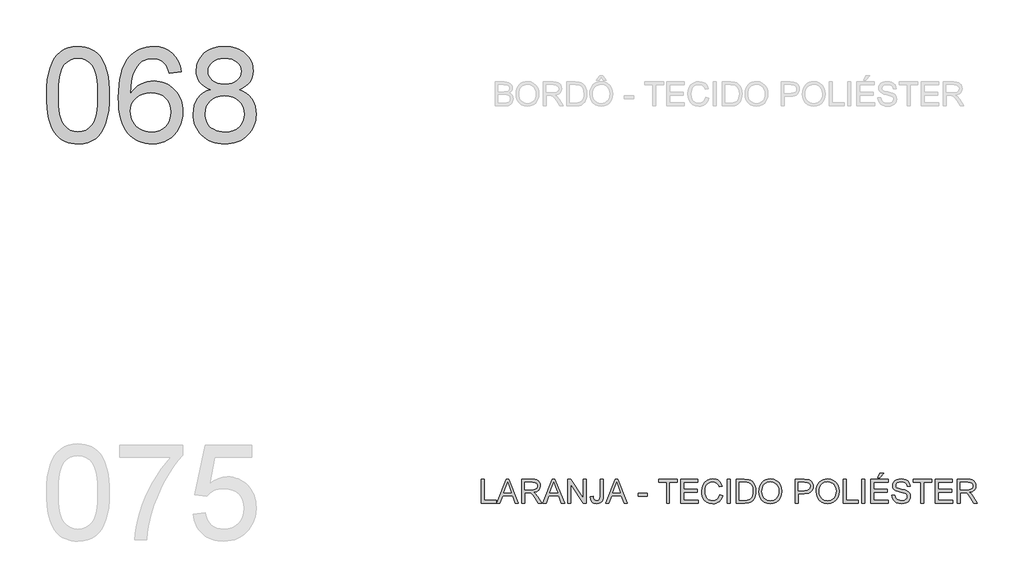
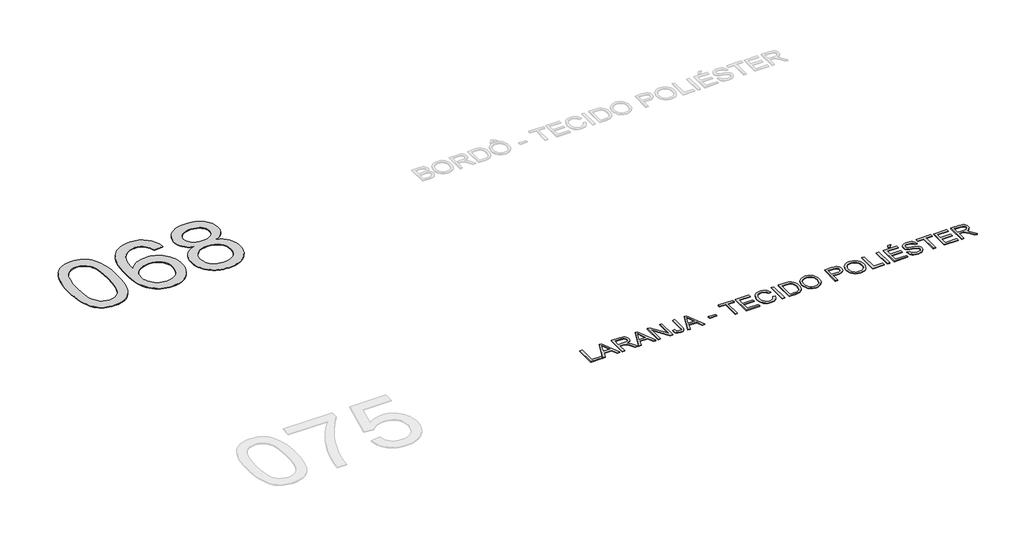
# One storey, part 8 of 39: 2 proxies.
"""IFC4 building model written with IfcOpenShell, lengths in millimetres."""

from ifc_helpers import new_model, si_unit, origin, origin_with_axes, place, context, project, spatial, polyline, outline, extrude, element, save

model = new_model("IFC4")

# Units and contexts
model_context = context("Model", 3, world=origin())
ifc_project = project(units=[si_unit("LENGTHUNIT", "METRE", prefix="MILLI")], contexts=[model_context])

# Site, building, storey
site = spatial("IfcSite", under=ifc_project)
building = spatial("IfcBuilding", under=site)
storey = spatial("IfcBuildingStorey", under=building, Name="Marelli - Linha PROFIT - Planta Baixa", Elevation=0.0)

# Proxies
placement = place(None, origin())
element("IfcBuildingElementProxy", 1, Name="1200mm Arial", ObjectType="1200mm Arial", at=placement, inside=storey, context=model_context, shape_type="SweptSolid", body=[
    extrude(outline(polyline([(-25181.1313792, -114395.792664), (-25178.3630672, -114294.4319773), (-25170.0581311, -114202.8385576), (-25156.2165711, -114121.0124048), (-25136.838387, -114048.953519), (-25112.0063523, -113986.073289), (-25081.8032405, -113931.7831035), (-25046.2290516, -113886.0829627), (-25005.2837855, -113848.9728664), (-24958.8294866, -113820.2596767), (-24906.728199, -113799.7502555), (-24848.9799228, -113787.4446027), (-24785.584658, -113783.3427185), (-24737.9439396, -113785.7707396), (-24692.7312424, -113793.0548031), (-24649.9465664, -113805.194909), (-24609.5899115, -113822.1910572), (-24572.6361651, -113843.7581391), (-24540.0602144, -113869.6110463), (-24511.8620595, -113899.7497788), (-24488.0417003, -113934.1743365), (-24467.4035204, -113972.7467637), (-24448.7519032, -114015.3291046), (-24417.4083572, -114112.5235278), (-24405.4337983, -114169.6831928), (-24396.8805419, -114235.9479371), (-24391.7485881, -114311.3177609), (-24390.0379368, -114395.792664), (-24392.7786576, -114496.5095573), (-24401.0008202, -114587.6431245), (-24414.7044246, -114669.1933658), (-24433.8894706, -114741.1602811), (-24458.5283672, -114804.0681023), (-24488.5935233, -114858.4410612), (-24524.0849388, -114904.2791578), (-24565.0026137, -114941.5823921), (-24611.5120949, -114970.4887199), (-24663.7789294, -114991.1360968), (-24721.8031171, -115003.524523), (-24785.584658, -115007.6539984), (-24828.2589694, -115005.8605737), (-24868.5788361, -115000.4802995), (-24906.544258, -114991.5131759), (-24942.1552351, -114978.9592028), (-24975.4117675, -114962.8183803), (-25006.3138551, -114943.0907083), (-25034.8614979, -114919.7761868), (-25061.054696, -114892.8748159), (-25089.1976686, -114850.2786794), (-25113.5882449, -114802.0999336), (-25134.2264248, -114748.3385785), (-25151.1122084, -114688.9946142), (-25164.2455956, -114624.0680406), (-25173.6265865, -114553.5588577), (-25179.255181, -114477.4670655), (-25181.1313792, -114395.792664)]), holes=[polyline([(-25030.446914, -114395.4983584), (-25026.03233, -114526.4919399), (-25012.7885782, -114632.5247279), (-25002.8557643, -114676.1808245), (-24990.7156585, -114713.5967226), (-24976.3682607, -114744.7724225), (-24959.8135709, -114769.7079239), (-24922.4367602, -114807.884878), (-24880.9396711, -114835.1541309), (-24835.3223037, -114851.5156826), (-24785.584658, -114856.9695332), (-24735.8470122, -114851.4972885), (-24690.2296448, -114835.0805545), (-24648.7325558, -114807.7193311), (-24611.3557451, -114769.4136183), (-24594.8010553, -114744.418336), (-24580.4536575, -114713.2104465), (-24568.3135516, -114675.7899498), (-24558.3807378, -114632.1568459), (-24545.1369859, -114526.2528166), (-24540.722402, -114395.4983584), (-24544.9898331, -114267.9720648), (-24557.7921266, -114163.8062779), (-24567.3938467, -114120.4835744), (-24579.1292823, -114083.0009976), (-24592.9984335, -114051.3585475), (-24609.0013003, -114025.5562241), (-24645.7527116, -113985.5122689), (-24687.7280473, -113956.9094438), (-24734.9273073, -113939.7477487), (-24787.3504916, -113934.0271837), (-24836.8306199, -113939.067167), (-24881.6754351, -113954.187117), (-24921.8849372, -113979.3870337), (-24957.4591261, -114014.666917), (-24974.5656389, -114043.2145599), (-24989.3912833, -114077.2068562), (-25001.9360594, -114116.6438061), (-25012.199967, -114161.5254095), (-25025.8851772, -114267.6225769), (-25030.446914, -114395.4983584)])]), origin_with_axes(), (0.0, 0.0, 1.0), 10.0),
    extrude(outline(polyline([(-23485.9311454, -114103.5472071), (-23636.6156107, -114122.3827652), (-23647.6888587, -114082.0812927), (-23660.8958223, -114047.7027202), (-23676.2365015, -114019.2470479), (-23693.7108963, -113996.7142757), (-23726.102906, -113969.2886729), (-23762.063371, -113949.6989567), (-23801.5922914, -113937.9451269), (-23844.6896671, -113934.0271837), (-23880.2270679, -113936.3080521), (-23914.734399, -113943.1506572), (-23948.2116606, -113954.554999), (-23980.6588525, -113970.5210776), (-24010.2641561, -113996.6315022), (-24037.2758916, -114028.1681863), (-24061.694059, -114065.1311297), (-24083.5186584, -114107.5203326), (-24101.5908614, -114158.1316981), (-24114.7518398, -114219.7611293), (-24123.0015935, -114292.4086263), (-24126.3401226, -114376.0741891), (-24097.6177359, -114338.2099347), (-24065.8971108, -114305.5512106), (-24031.1782475, -114278.0980167), (-23993.461146, -114255.8503531), (-23953.7574816, -114238.6610669), (-23913.07893, -114226.3830053), (-23871.4254911, -114219.0161683), (-23828.7971649, -114216.560556), (-23791.8986008, -114218.2390176), (-23756.3979883, -114223.2744024), (-23722.2953273, -114231.6667104), (-23689.590618, -114243.4159416), (-23658.2838602, -114258.5220961), (-23628.375054, -114276.9851737), (-23599.8641993, -114298.8051745), (-23572.7512963, -114323.9820986), (-23547.9882395, -114351.81697), (-23526.5269236, -114381.6108131), (-23508.3673486, -114413.3636278), (-23493.5095145, -114447.0754142), (-23481.9534214, -114482.7461721), (-23473.6990691, -114520.3759017), (-23468.7464577, -114559.9646029), (-23467.0955873, -114601.5122757), (-23470.2041901, -114656.4462547), (-23479.5299987, -114709.4120649), (-23495.073013, -114760.4097065), (-23516.833233, -114809.4391794), (-23544.0381066, -114854.6702707), (-23575.9150814, -114894.2727675), (-23612.4641577, -114928.2466698), (-23653.6853352, -114956.5919775), (-23698.6956973, -114978.9316116), (-23746.6123272, -114994.8884932), (-23797.4352248, -115004.4626221), (-23851.1643902, -115007.6539984), (-23897.1657345, -115005.5386769), (-23940.9919764, -114999.1927125), (-23982.6431161, -114988.6161052), (-24022.1191534, -114973.8088549), (-24059.4200884, -114954.7709616), (-24094.5459212, -114931.5024254), (-24127.4966517, -114904.0032463), (-24158.2722798, -114872.2734242), (-24186.104852, -114835.6875598), (-24210.2264146, -114793.6202536), (-24230.6369675, -114746.0715057), (-24247.3365108, -114693.0413161), (-24260.3250445, -114634.5296848), (-24269.6025686, -114570.5366117), (-24275.169083, -114501.062097), (-24277.0245879, -114426.1061404), (-24274.9644487, -114342.1784618), (-24268.7840312, -114264.1828803), (-24258.4833353, -114192.1193959), (-24244.0623611, -114125.9880088), (-24225.5211085, -114065.7887188), (-24202.8595776, -114011.521526), (-24176.0777684, -113963.1864303), (-24145.1756808, -113920.7834319), (-24115.1611085, -113888.5707647), (-24082.6541357, -113860.6531198), (-24047.6547624, -113837.0304971), (-24010.1629886, -113817.7028968), (-23970.1788142, -113802.6703188), (-23927.7022393, -113791.9327631), (-23882.733264, -113785.4902296), (-23835.271888, -113783.3427185), (-23765.8709497, -113788.6586133), (-23703.055099, -113804.6062978), (-23646.824336, -113831.1857719), (-23597.1786608, -113868.3970358), (-23555.4608425, -113914.9892904), (-23523.0136505, -113969.7117372), (-23499.8370848, -114032.5643761), (-23485.9311454, -114103.5472071)]), holes=[polyline([(-24126.3401226, -114599.157831), (-24124.1604218, -114632.9202011), (-24117.6213193, -114665.9284131), (-24106.7228152, -114698.182467), (-24091.4649095, -114729.6823629), (-24072.5925631, -114758.9473756), (-24050.8507372, -114784.4967801), (-24026.2394317, -114806.3305766), (-23998.7586467, -114824.4487648), (-23968.5831261, -114838.676601), (-23935.8876137, -114848.8393411), (-23900.6721097, -114854.9369852), (-23862.9366141, -114856.9695332), (-23810.559415, -114852.7572843), (-23763.4981108, -114840.1205378), (-23721.7527014, -114819.0592936), (-23685.3231868, -114789.5735517), (-23655.7730656, -114752.8589286), (-23634.6658361, -114710.1110407), (-23622.0014984, -114661.3298882), (-23617.7800525, -114606.5154709), (-23621.9463161, -114553.8439662), (-23634.4451069, -114507.0769676), (-23655.2764249, -114466.214475), (-23684.44027, -114431.2564884), (-23720.9801492, -114403.2514715), (-23763.9395692, -114383.247888), (-23813.31853, -114371.2457379), (-23869.1170316, -114367.2450212), (-23920.7952549, -114371.2457379), (-23968.4083821, -114383.247888), (-24011.9564133, -114403.2514715), (-24051.4393484, -114431.2564884), (-24084.2084371, -114465.7546225), (-24107.6149291, -114505.2375576), (-24121.6588242, -114549.7052938), (-24126.3401226, -114599.157831)])]), origin_with_axes(), (0.0, 0.0, 1.0), 10.0),
    extrude(outline(polyline([(-23115.6947055, -114324.8650154), (-23159.0404016, -114306.7652212), (-23196.371227, -114285.1337599), (-23227.6871819, -114259.9706314), (-23252.9882661, -114231.2758358), (-23272.4952089, -114199.3252845), (-23286.4287394, -114164.3948891), (-23294.7888578, -114126.4846495), (-23297.5755639, -114085.5945657), (-23291.505511, -114024.1398784), (-23283.9179448, -113995.3301197), (-23273.2953522, -113967.7987509), (-23259.6377331, -113941.545772), (-23242.9450876, -113916.571183), (-23200.4547172, -113870.4571749), (-23175.1674285, -113850.0397242), (-23147.865986, -113832.3446002), (-23118.5503895, -113817.371803), (-23087.2206391, -113805.1213326), (-23018.5186765, -113788.787372), (-22941.7600982, -113783.3427185), (-22864.6336379, -113788.9161307), (-22795.4166405, -113805.6363674), (-22763.7741904, -113818.1765449), (-22734.109106, -113833.5034285), (-22706.4213873, -113851.6170183), (-22680.7110344, -113872.5173141), (-22637.4481118, -113919.5326331), (-22620.4519636, -113944.8613085), (-22606.5460242, -113971.4039944), (-22595.7302935, -113999.1606909), (-22588.0047716, -114028.1313981), (-22583.3694585, -114058.3161158), (-22581.8243541, -114089.7148441), (-22584.574272, -114129.160991), (-22592.8240257, -114165.9767817), (-22606.5736153, -114200.1622161), (-22625.8230407, -114231.7172942), (-22650.6642724, -114260.2189518), (-22681.189281, -114285.2441245), (-22717.3980664, -114306.7928124), (-22759.2906286, -114324.8650154), (-22709.764515, -114345.9354566), (-22666.5475776, -114372.6528865), (-22629.6398164, -114405.0173051), (-22599.0412315, -114443.0287122), (-22575.0277342, -114485.8409794), (-22557.8752362, -114532.607978), (-22547.5837374, -114583.3297081), (-22544.1532378, -114638.0061697), (-22545.854692, -114676.3670647), (-22550.9590547, -114713.1644613), (-22559.4663258, -114748.3983594), (-22571.3765054, -114782.068759), (-22586.6895935, -114814.1756601), (-22605.40559, -114844.7190628), (-22627.5244949, -114873.6989669), (-22653.0463083, -114901.1153726), (-22681.3456308, -114926.085363), (-22711.797063, -114947.7260214), (-22744.4006048, -114966.0373477), (-22779.1562563, -114981.019342), (-22816.0640175, -114992.6720042), (-22855.1238883, -115000.9953343), (-22896.3358688, -115005.9893324), (-22939.699959, -115007.6539984), (-22983.0640492, -115005.9824346), (-23024.2760297, -115000.9677432), (-23063.3359005, -114992.6099241), (-23100.2436617, -114980.9089774), (-23134.9993132, -114965.864903), (-23167.602855, -114947.4777011), (-23198.0542872, -114925.7473715), (-23226.3536096, -114900.6739142), (-23251.875423, -114873.1034579), (-23273.994328, -114843.8821312), (-23292.7103245, -114813.009934), (-23308.0234126, -114780.4868664), (-23319.9335922, -114746.3129283), (-23328.4408633, -114710.4881198), (-23333.545226, -114673.0124408), (-23335.2466802, -114633.8858913), (-23331.6782249, -114576.7170293), (-23320.9728588, -114524.4042096), (-23303.130582, -114476.9474322), (-23278.1513946, -114434.3466971), (-23246.5871194, -114397.3745566), (-23208.9895795, -114366.8035628), (-23165.3587748, -114342.6337157), (-23115.6947055, -114324.8650154)]), holes=[polyline([(-23146.8910987, -114090.0091496), (-23143.5525696, -114124.553269), (-23133.5369822, -114155.7864504), (-23116.8443367, -114183.7086938), (-23093.474633, -114208.3199993), (-23063.7221766, -114228.4063562), (-23027.8812732, -114242.753754), (-22985.9519228, -114251.3621927), (-22937.9341254, -114254.2316723), (-22891.1027474, -114251.3805868), (-22850.083905, -114242.8273304), (-22814.877598, -114228.5719031), (-22785.4838266, -114208.6143049), (-22762.3072609, -114184.5180342), (-22745.7525711, -114157.8465896), (-22735.8197573, -114128.5999709), (-22732.5088193, -114096.7781784), (-22735.9301219, -114063.714784), (-22746.1940295, -114033.3921106), (-22763.3005423, -114005.810158), (-22787.2496602, -113980.9689263), (-22817.3056192, -113960.4319139), (-22852.7326553, -113945.7626193), (-22893.5307686, -113936.9610426), (-22939.699959, -113934.0271837), (-22986.2278343, -113936.8966633), (-23027.2190856, -113945.5051019), (-23062.6737129, -113959.8524998), (-23092.5917162, -113979.9388567), (-23116.347696, -114004.0351274), (-23133.3162531, -114030.4122664), (-23143.4973873, -114059.0702739), (-23146.8910987, -114090.0091496)]), polyline([(-23184.562215, -114628.5883906), (-23182.9895195, -114657.6418712), (-23178.2714329, -114686.2354992), (-23159.3990865, -114742.0431979), (-23144.3986982, -114767.9328933), (-23124.5606616, -114790.7139859), (-23099.8849767, -114810.3864756), (-23070.3716437, -114826.9503624), (-23038.1819691, -114840.0837496), (-23005.4772597, -114849.4647405), (-22972.2575156, -114855.093335), (-22938.5227366, -114856.9695332), (-22884.0394131, -114853.0239988), (-22835.9572364, -114841.1873956), (-22794.2762063, -114821.4597236), (-22758.996323, -114793.8409828), (-22730.9269267, -114760.133795), (-22710.877358, -114722.140782), (-22698.8476167, -114679.8619437), (-22694.837703, -114633.2972801), (-22698.9763754, -114585.9876555), (-22711.3923928, -114542.9454621), (-22732.085755, -114504.1706998), (-22761.0564621, -114469.6633687), (-22797.2928387, -114441.336455), (-22839.7832091, -114421.1029453), (-22888.5275735, -114408.9628395), (-22943.5259317, -114404.9161375), (-22997.2091119, -114408.9076572), (-23044.6566922, -114420.8822161), (-23085.8686727, -114440.8398143), (-23120.8450534, -114468.7804519), (-23148.7213116, -114502.7175659), (-23168.6329246, -114540.6645937), (-23180.5798924, -114582.6215353), (-23184.562215, -114628.5883906)])]), origin_with_axes(), (0.0, 0.0, 1.0), 10.0),
])
element("IfcBuildingElementProxy", 2, Name="300mm Arial", ObjectType="300mm Arial", at=placement, inside=storey, context=model_context, shape_type="SweptSolid", body=[
    extrude(outline(polyline([(-19710.6627702, -119530.5663201), (-19710.6627702, -119229.1973896), (-19672.9916539, -119229.1973896), (-19672.9916539, -119492.8952038), (-19522.3071887, -119492.8952038), (-19522.3071887, -119530.5663201), (-19710.6627702, -119530.5663201)])), origin_with_axes(), (0.0, 0.0, 1.0), 10.0),
    extrude(outline(polyline([(-19515.0231252, -119530.5663201), (-19394.7257127, -119229.1973896), (-19362.6464028, -119229.1973896), (-19242.3489903, -119530.5663201), (-19282.1538222, -119530.5663201), (-19316.6611534, -119436.3885293), (-19440.7845385, -119436.3885293), (-19475.2182933, -119530.5663201), (-19515.0231252, -119530.5663201)]), holes=[polyline([(-19426.9521755, -119398.717413), (-19330.41994, -119398.717413), (-19357.5696312, -119324.6259792), (-19378.6860577, -119266.8685059), (-19397.4480395, -119318.1512561), (-19426.9521755, -119398.717413)])]), origin_with_axes(), (0.0, 0.0, 1.0), 10.0),
    extrude(outline(polyline([(-19202.1027001, -119530.5663201), (-19202.1027001, -119229.1973896), (-19072.2403558, -119229.1973896), (-19037.3375515, -119231.2299376), (-19011.9444968, -119237.3275817), (-18993.3848501, -119248.5847708), (-18978.98227, -119266.0959537), (-18969.7392349, -119287.8101885), (-18966.6582231, -119311.6765329), (-18971.7625858, -119341.3646099), (-18987.0756739, -119365.9759154), (-18998.675453, -119376.0052983), (-19013.0573398, -119384.0205273), (-19050.1674361, -119394.0085235), (-19028.7567039, -119410.1217548), (-18998.2224983, -119448.8965171), (-18947.9698178, -119530.5663201), (-18991.7477752, -119530.5663201), (-19030.9639959, -119468.0999573), (-19059.2909095, -119426.750021), (-19079.1933255, -119407.2154871), (-19097.1091786, -119400.0417882), (-19118.9613692, -119398.717413), (-19164.4315838, -119398.717413), (-19164.4315838, -119530.5663201), (-19202.1027001, -119530.5663201)]), holes=[polyline([(-19164.4315838, -119361.0462967), (-19080.1130305, -119361.0462967), (-19055.8971981, -119359.7127245), (-19037.1076252, -119355.7120078), (-19022.9625625, -119348.7774322), (-19012.6802607, -119338.6422832), (-19006.4170698, -119326.3826157), (-19004.3293395, -119313.0744845), (-19008.3116621, -119294.6987789), (-19020.2586298, -119279.8915286), (-19040.8140363, -119270.1242616), (-19070.621675, -119266.8685059), (-19164.4315838, -119266.8685059), (-19164.4315838, -119361.0462967)])]), origin_with_axes(), (0.0, 0.0, 1.0), 10.0),
    extrude(outline(polyline([(-18935.829712, -119530.5663201), (-18815.5322995, -119229.1973896), (-18783.4529896, -119229.1973896), (-18663.1555771, -119530.5663201), (-18702.960409, -119530.5663201), (-18737.4677402, -119436.3885293), (-18861.5911253, -119436.3885293), (-18896.0248801, -119530.5663201), (-18935.829712, -119530.5663201)]), holes=[polyline([(-18847.7587623, -119398.717413), (-18751.2265268, -119398.717413), (-18778.376218, -119324.6259792), (-18799.4926445, -119266.8685059), (-18818.2546263, -119318.1512561), (-18847.7587623, -119398.717413)])]), origin_with_axes(), (0.0, 0.0, 1.0), 10.0),
    extrude(outline(polyline([(-18622.9092869, -119530.5663201), (-18622.9092869, -119229.1973896), (-18582.5894202, -119229.1973896), (-18425.1359262, -119467.9528045), (-18425.1359262, -119229.1973896), (-18387.4648099, -119229.1973896), (-18387.4648099, -119530.5663201), (-18427.7846766, -119530.5663201), (-18585.2381706, -119291.7373288), (-18585.2381706, -119530.5663201), (-18622.9092869, -119530.5663201)])), origin_with_axes(), (0.0, 0.0, 1.0), 10.0),
    extrude(outline(polyline([(-18340.3759146, -119445.9534612), (-18302.7047983, -119441.0974188), (-18298.786855, -119468.4862334), (-18289.8289284, -119485.6111403), (-18276.1437182, -119494.605855), (-18258.043924, -119497.6040933), (-18244.1287876, -119495.9026391), (-18232.2553962, -119490.7982764), (-18223.0951345, -119482.7600548), (-18217.3193872, -119472.2570238), (-18213.235897, -119434.9170013), (-18213.235897, -119229.1973896), (-18175.5647807, -119229.1973896), (-18175.5647807, -119434.2548137), (-18177.836452, -119467.7964546), (-18184.651466, -119492.7848392), (-18196.4052957, -119511.0409832), (-18213.4934144, -119524.3859025), (-18234.9501318, -119532.5528828), (-18259.8097576, -119535.2752096), (-18294.6297885, -119529.6558121), (-18308.5771146, -119522.6315653), (-18320.2159812, -119512.7976197), (-18329.3394547, -119500.1907636), (-18335.7406014, -119484.8477851), (-18340.3759146, -119445.9534612)])), origin_with_axes(), (0.0, 0.0, 1.0), 10.0),
    extrude(outline(polyline([(-18144.7362695, -119530.5663201), (-18024.4388571, -119229.1973896), (-17992.3595471, -119229.1973896), (-17872.0621347, -119530.5663201), (-17911.8669666, -119530.5663201), (-17946.3742977, -119436.3885293), (-18070.4976829, -119436.3885293), (-18104.9314376, -119530.5663201), (-18144.7362695, -119530.5663201)]), holes=[polyline([(-18056.6653199, -119398.717413), (-17960.1330843, -119398.717413), (-17987.2827756, -119324.6259792), (-18008.3992021, -119266.8685059), (-18027.1611839, -119318.1512561), (-18056.6653199, -119398.717413)])]), origin_with_axes(), (0.0, 0.0, 1.0), 10.0),
    extrude(outline(polyline([(-17737.6380537, -119441.0974188), (-17737.6380537, -119403.4263025), (-17619.9158152, -119403.4263025), (-17619.9158152, -119441.0974188), (-17737.6380537, -119441.0974188)])), origin_with_axes(), (0.0, 0.0, 1.0), 10.0),
    extrude(outline(polyline([(-17379.7624488, -119530.5663201), (-17379.7624488, -119266.8685059), (-17478.6491291, -119266.8685059), (-17478.6491291, -119229.1973896), (-17243.2046521, -119229.1973896), (-17243.2046521, -119266.8685059), (-17342.0913324, -119266.8685059), (-17342.0913324, -119530.5663201), (-17379.7624488, -119530.5663201)])), origin_with_axes(), (0.0, 0.0, 1.0), 10.0),
    extrude(outline(polyline([(-17200.8246463, -119530.5663201), (-17200.8246463, -119229.1973896), (-16984.2157275, -119229.1973896), (-16984.2157275, -119266.8685059), (-17163.15353, -119266.8685059), (-17163.15353, -119356.3374072), (-16993.6335066, -119356.3374072), (-16993.6335066, -119394.0085235), (-17163.15353, -119394.0085235), (-17163.15353, -119492.8952038), (-16979.506838, -119492.8952038), (-16979.506838, -119530.5663201), (-17200.8246463, -119530.5663201)])), origin_with_axes(), (0.0, 0.0, 1.0), 10.0),
    extrude(outline(polyline([(-16711.1001343, -119423.4390831), (-16673.429018, -119433.1511677), (-16680.8832269, -119456.5783531), (-16690.8114423, -119477.0486868), (-16703.2136641, -119494.5621691), (-16718.0898922, -119509.1187997), (-16735.1044345, -119520.5622291), (-16753.9215986, -119528.7361071), (-16774.5413844, -119533.640434), (-16796.963792, -119535.2752096), (-16840.658976, -119530.3271968), (-16875.3594452, -119515.4831583), (-16901.9573134, -119491.2581289), (-16921.3446946, -119458.1671434), (-16933.1812978, -119419.2636224), (-16937.1268322, -119377.6009865), (-16932.666263, -119333.6574821), (-16919.2845554, -119295.7104543), (-16897.6806852, -119264.9647166), (-16868.5536283, -119242.6250824), (-16834.0095089, -119229.0226457), (-16796.1544516, -119224.4885001), (-16754.8505006, -119230.3562179), (-16736.8817644, -119237.6908652), (-16720.7018544, -119247.9593714), (-16706.577485, -119260.8904235), (-16694.7753708, -119276.2127086), (-16678.1379076, -119314.0309777), (-16715.8090239, -119323.0072984), (-16728.8688347, -119295.5357104), (-16746.7111115, -119276.6909552), (-16769.5565834, -119265.7924511), (-16797.6259796, -119262.1596164), (-16829.9812011, -119266.1879242), (-16856.5606752, -119278.2728478), (-16876.7298056, -119297.1451941), (-16889.8539958, -119321.5357704), (-16897.0552858, -119349.1085259), (-16899.4557159, -119377.5274101), (-16896.6138274, -119412.3290468), (-16888.0881622, -119442.421794), (-16873.5568234, -119466.6560205), (-16852.6979143, -119483.8820949), (-16827.6911356, -119494.1735937), (-16800.7161883, -119497.6040933), (-16769.2714748, -119492.931992), (-16743.0690797, -119478.9156879), (-16723.2862254, -119455.702334), (-16711.1001343, -119423.4390831)])), origin_with_axes(), (0.0, 0.0, 1.0), 10.0),
    extrude(outline(polyline([(-16616.9223436, -119530.5663201), (-16616.9223436, -119229.1973896), (-16579.2512273, -119229.1973896), (-16579.2512273, -119530.5663201), (-16616.9223436, -119530.5663201)])), origin_with_axes(), (0.0, 0.0, 1.0), 10.0),
    extrude(outline(polyline([(-16503.9089946, -119530.5663201), (-16503.9089946, -119229.1973896), (-16399.9455428, -119229.1973896), (-16346.1611951, -119233.5383972), (-16322.1385008, -119241.9077126), (-16301.8682029, -119255.0962821), (-16281.0276879, -119278.0521186), (-16266.1836494, -119306.5997614), (-16257.2992992, -119340.1873876), (-16254.3378491, -119378.2631741), (-16256.342806, -119410.6091985), (-16262.3576766, -119439.0740679), (-16271.5179383, -119463.3082943), (-16282.9590683, -119482.9623899), (-16296.1292438, -119498.477813), (-16310.4766416, -119510.2960221), (-16326.9485579, -119519.0608107), (-16346.4922889, -119525.4159721), (-16394.9423477, -119530.5663201), (-16503.9089946, -119530.5663201)]), holes=[polyline([(-16466.2378783, -119492.8952038), (-16399.5776608, -119492.8952038), (-16372.0049053, -119491.5340404), (-16351.0908138, -119487.4505502), (-16335.3086762, -119480.8838566), (-16323.1317822, -119472.0730828), (-16310.0443802, -119455.7667134), (-16300.2127339, -119434.6594839), (-16294.0599075, -119408.6594239), (-16292.0089654, -119377.6745629), (-16296.0280762, -119336.6189322), (-16308.0854086, -119306.3054558), (-16325.9000942, -119285.4833349), (-16347.1912647, -119272.9017706), (-16368.8595142, -119268.3768221), (-16400.6077304, -119266.8685059), (-16466.2378783, -119266.8685059), (-16466.2378783, -119492.8952038)])]), origin_with_axes(), (0.0, 0.0, 1.0), 10.0),
    extrude(outline(polyline([(-16216.6667328, -119383.8549804), (-16214.1559382, -119348.5061192), (-16206.6235543, -119317.213157), (-16194.0695813, -119289.9760937), (-16176.4940189, -119266.7949295), (-16154.9499296, -119248.2858666), (-16130.4903754, -119235.0651074), (-16103.1153565, -119227.1326519), (-16072.8248727, -119224.4885001), (-16033.2959523, -119229.454907), (-15997.8505221, -119244.3541278), (-15968.4199625, -119268.1376988), (-15946.9356539, -119299.7571563), (-15933.8022667, -119337.68579), (-15929.424471, -119380.3968896), (-15934.032193, -119423.6782064), (-15947.8553589, -119462.140269), (-15970.1306137, -119493.8149087), (-16000.0946022, -119516.733957), (-16035.2365298, -119530.6398965), (-16073.0456019, -119535.2752096), (-16113.1815276, -119530.1524528), (-16148.8292929, -119514.7841825), (-16178.1862761, -119490.5591531), (-16199.4498554, -119458.8661192), (-16212.3625135, -119422.3998164), (-16216.6667328, -119383.8549804)]), holes=[polyline([(-16178.9956165, -119384.2228624), (-16177.1125205, -119409.1974513), (-16171.4632326, -119431.3669401), (-16162.0477528, -119450.7313286), (-16148.8660811, -119467.2906169), (-16132.8425209, -119480.5527628), (-16114.9013759, -119490.0257242), (-16095.0426459, -119495.709501), (-16073.2663311, -119497.6040933), (-16051.1175357, -119495.6911069), (-16031.024281, -119489.9521478), (-16012.9865669, -119480.3872159), (-15997.0043935, -119466.9963113), (-15983.9192908, -119450.0875351), (-15974.5727888, -119429.9689885), (-15968.9648877, -119406.6406715), (-15967.0955873, -119380.102584), (-15970.2961606, -119346.7540812), (-15979.8978807, -119317.9305269), (-15995.6524272, -119294.358488), (-16017.3114796, -119276.7645316), (-16043.4402983, -119265.8108452), (-16072.6041435, -119262.1596164), (-16093.624001, -119263.9185522), (-16113.1263453, -119269.1953595), (-16131.1111763, -119277.9900385), (-16147.5784941, -119290.302589), (-16161.3234852, -119306.7262208), (-16171.1413359, -119327.8541437), (-16177.0320463, -119353.6863575), (-16178.9956165, -119384.2228624)])]), origin_with_axes(), (0.0, 0.0, 1.0), 10.0),
    extrude(outline(polyline([(-15759.9044476, -119530.5663201), (-15759.9044476, -119229.1973896), (-15648.2154739, -119229.1973896), (-15603.1867176, -119232.0668692), (-15583.1095578, -119237.4287493), (-15566.5824591, -119246.1567496), (-15553.274328, -119258.6463433), (-15542.8540704, -119275.2930036), (-15536.1218299, -119294.9287051), (-15533.8777498, -119316.3854225), (-15535.3929637, -119334.8852883), (-15539.9386056, -119351.9044291), (-15547.5146755, -119367.4428449), (-15558.1211732, -119381.5005356), (-15572.6824025, -119393.1531978), (-15592.1226666, -119401.476528), (-15616.4419658, -119406.470526), (-15645.6402999, -119408.1351921), (-15722.2333313, -119408.1351921), (-15722.2333313, -119530.5663201), (-15759.9044476, -119530.5663201)]), holes=[polyline([(-15722.2333313, -119370.4640758), (-15643.4330079, -119370.4640758), (-15610.0293228, -119367.005985), (-15587.956403, -119356.6317127), (-15575.6507503, -119339.9850525), (-15571.5488661, -119317.7097977), (-15573.9676902, -119300.7872259), (-15581.2241625, -119286.5134045), (-15592.4169722, -119275.7712502), (-15606.6448084, -119269.4436799), (-15644.3159247, -119266.8685059), (-15722.2333313, -119266.8685059), (-15722.2333313, -119370.4640758)])]), origin_with_axes(), (0.0, 0.0, 1.0), 10.0),
    extrude(outline(polyline([(-15496.2066335, -119383.8549804), (-15493.6958388, -119348.5061192), (-15486.163455, -119317.213157), (-15473.6094819, -119289.9760937), (-15456.0339196, -119266.7949295), (-15434.4898302, -119248.2858666), (-15410.0302761, -119235.0651074), (-15382.6552571, -119227.1326519), (-15352.3647733, -119224.4885001), (-15312.835853, -119229.454907), (-15277.3904227, -119244.3541278), (-15247.9598631, -119268.1376988), (-15226.4755546, -119299.7571563), (-15213.3421674, -119337.68579), (-15208.9643716, -119380.3968896), (-15213.5720936, -119423.6782064), (-15227.3952596, -119462.140269), (-15249.6705144, -119493.8149087), (-15279.6345029, -119516.733957), (-15314.7764305, -119530.6398965), (-15352.5855025, -119535.2752096), (-15392.7214282, -119530.1524528), (-15428.3691935, -119514.7841825), (-15457.7261768, -119490.5591531), (-15478.9897561, -119458.8661192), (-15491.9024141, -119422.3998164), (-15496.2066335, -119383.8549804)]), holes=[polyline([(-15458.5355171, -119384.2228624), (-15456.6524212, -119409.1974513), (-15451.0031333, -119431.3669401), (-15441.5876535, -119450.7313286), (-15428.4059817, -119467.2906169), (-15412.3824216, -119480.5527628), (-15394.4412765, -119490.0257242), (-15374.5825466, -119495.709501), (-15352.8062317, -119497.6040933), (-15330.6574364, -119495.6911069), (-15310.5641816, -119489.9521478), (-15292.5264676, -119480.3872159), (-15276.5442941, -119466.9963113), (-15263.4591914, -119450.0875351), (-15254.1126895, -119429.9689885), (-15248.5047883, -119406.6406715), (-15246.6354879, -119380.102584), (-15249.8360613, -119346.7540812), (-15259.4377814, -119317.9305269), (-15275.1923278, -119294.358488), (-15296.8513803, -119276.7645316), (-15322.980199, -119265.8108452), (-15352.1440441, -119262.1596164), (-15373.1639016, -119263.9185522), (-15392.6662459, -119269.1953595), (-15410.6510769, -119277.9900385), (-15427.1183948, -119290.302589), (-15440.8633858, -119306.7262208), (-15450.6812365, -119327.8541437), (-15456.571947, -119353.6863575), (-15458.5355171, -119384.2228624)])]), origin_with_axes(), (0.0, 0.0, 1.0), 10.0),
    extrude(outline(polyline([(-15157.1665867, -119530.5663201), (-15157.1665867, -119229.1973896), (-15119.4954704, -119229.1973896), (-15119.4954704, -119492.8952038), (-14968.8110052, -119492.8952038), (-14968.8110052, -119530.5663201), (-15157.1665867, -119530.5663201)])), origin_with_axes(), (0.0, 0.0, 1.0), 10.0),
    extrude(outline(polyline([(-14921.7221098, -119530.5663201), (-14921.7221098, -119229.1973896), (-14884.0509935, -119229.1973896), (-14884.0509935, -119530.5663201), (-14921.7221098, -119530.5663201)])), origin_with_axes(), (0.0, 0.0, 1.0), 10.0),
    extrude(outline(polyline([(-14808.7087609, -119530.5663201), (-14808.7087609, -119229.1973896), (-14592.0998421, -119229.1973896), (-14592.0998421, -119266.8685059), (-14771.0376446, -119266.8685059), (-14771.0376446, -119356.3374072), (-14601.5176212, -119356.3374072), (-14601.5176212, -119394.0085235), (-14771.0376446, -119394.0085235), (-14771.0376446, -119492.8952038), (-14587.3909526, -119492.8952038), (-14587.3909526, -119530.5663201), (-14808.7087609, -119530.5663201)])), origin_with_axes(), (0.0, 0.0, 1.0), 10.0),
    extrude(outline(polyline([(-14723.9487492, -119210.3618315), (-14695.6954119, -119153.855157), (-14648.6065166, -119153.855157), (-14695.6954119, -119210.3618315), (-14723.9487492, -119210.3618315)])), origin_with_axes(), (0.0, 0.0, 1.0), 10.0),
    extrude(outline(polyline([(-14545.0109467, -119426.9707502), (-14507.3398304, -119426.9707502), (-14503.017217, -119447.8756446), (-14495.1997246, -119464.6786547), (-14483.0044364, -119478.0143771), (-14465.5484358, -119488.517408), (-14444.21128, -119495.332422), (-14420.3725268, -119497.6040933), (-14399.3848589, -119495.884245), (-14381.0091533, -119490.7247), (-14366.1191295, -119482.5577197), (-14355.5885074, -119471.8155654), (-14349.3253164, -119459.4823216), (-14347.2375861, -119446.5420724), (-14348.8010846, -119433.932917), (-14353.49158, -119423.0344129), (-14363.0197237, -119413.7361954), (-14379.0961669, -119405.9279001), (-14433.9473724, -119391.5437141), (-14469.9538227, -119382.0247675), (-14492.9924326, -119372.9656733), (-14511.7452173, -119360.2921386), (-14525.0349544, -119344.9330653), (-14532.9536143, -119327.2195472), (-14535.5931676, -119307.4826782), (-14532.3282149, -119285.4189555), (-14522.5333568, -119264.845155), (-14506.4661107, -119247.4075484), (-14484.3839939, -119234.7524077), (-14457.8780962, -119227.054477), (-14428.539507, -119224.4885001), (-14396.7545027, -119227.1740386), (-14368.9426238, -119235.2306543), (-14346.0971519, -119248.4928003), (-14329.2113684, -119266.7949295), (-14318.5243964, -119288.9966079), (-14314.2753593, -119313.9574013), (-14351.9464757, -119313.9574013), (-14358.8626572, -119291.4798114), (-14373.2836314, -119275.2562154), (-14395.8164036, -119265.4337661), (-14427.0679791, -119262.1596164), (-14459.0553185, -119265.3969779), (-14480.9994796, -119275.1090626), (-14493.6914084, -119289.4012781), (-14497.9220513, -119306.3790322), (-14494.9238131, -119320.8551887), (-14485.9290983, -119332.4986539), (-14464.665519, -119342.9097143), (-14424.4192287, -119353.541504), (-14382.8853514, -119363.6398648), (-14357.7590112, -119372.4506385), (-14336.2838997, -119386.1174547), (-14321.3019055, -119402.9848441), (-14312.5003287, -119422.868866), (-14309.5664698, -119445.5855792), (-14312.9417871, -119468.8081301), (-14323.067739, -119490.6511236), (-14339.5304583, -119509.4498935), (-14361.9160777, -119523.539774), (-14388.8358427, -119532.3413507), (-14418.9009988, -119535.2752096), (-14455.8087599, -119532.1114244), (-14486.1866157, -119522.620069), (-14510.3840539, -119506.764355), (-14528.7505625, -119484.5074943), (-14540.5411805, -119457.3945912), (-14545.0109467, -119426.9707502)])), origin_with_axes(), (0.0, 0.0, 1.0), 10.0),
    extrude(outline(polyline([(-14177.7175627, -119530.5663201), (-14177.7175627, -119266.8685059), (-14276.604243, -119266.8685059), (-14276.604243, -119229.1973896), (-14041.1597661, -119229.1973896), (-14041.1597661, -119266.8685059), (-14140.0464464, -119266.8685059), (-14140.0464464, -119530.5663201), (-14177.7175627, -119530.5663201)])), origin_with_axes(), (0.0, 0.0, 1.0), 10.0),
    extrude(outline(polyline([(-13998.7797603, -119530.5663201), (-13998.7797603, -119229.1973896), (-13782.1708415, -119229.1973896), (-13782.1708415, -119266.8685059), (-13961.108644, -119266.8685059), (-13961.108644, -119356.3374072), (-13791.5886206, -119356.3374072), (-13791.5886206, -119394.0085235), (-13961.108644, -119394.0085235), (-13961.108644, -119492.8952038), (-13777.461952, -119492.8952038), (-13777.461952, -119530.5663201), (-13998.7797603, -119530.5663201)])), origin_with_axes(), (0.0, 0.0, 1.0), 10.0),
    extrude(outline(polyline([(-13720.9552775, -119530.5663201), (-13720.9552775, -119229.1973896), (-13591.0929332, -119229.1973896), (-13556.1901289, -119231.2299376), (-13530.7970742, -119237.3275817), (-13512.2374276, -119248.5847708), (-13497.8348475, -119266.0959537), (-13488.5918123, -119287.8101885), (-13485.5108006, -119311.6765329), (-13490.6151633, -119341.3646099), (-13505.9282513, -119365.9759154), (-13517.5280305, -119376.0052983), (-13531.9099173, -119384.0205273), (-13569.0200135, -119394.0085235), (-13547.6092814, -119410.1217548), (-13517.0750758, -119448.8965171), (-13466.8223953, -119530.5663201), (-13510.6003527, -119530.5663201), (-13549.8165734, -119468.0999573), (-13578.143487, -119426.750021), (-13598.0459029, -119407.2154871), (-13615.9617561, -119400.0417882), (-13637.8139466, -119398.717413), (-13683.2841612, -119398.717413), (-13683.2841612, -119530.5663201), (-13720.9552775, -119530.5663201)]), holes=[polyline([(-13683.2841612, -119361.0462967), (-13598.9656079, -119361.0462967), (-13574.7497756, -119359.7127245), (-13555.9602027, -119355.7120078), (-13541.81514, -119348.7774322), (-13531.5328382, -119338.6422832), (-13525.2696472, -119326.3826157), (-13523.1819169, -119313.0744845), (-13527.1642395, -119294.6987789), (-13539.1112073, -119279.8915286), (-13559.6666138, -119270.1242616), (-13589.4742524, -119266.8685059), (-13683.2841612, -119266.8685059), (-13683.2841612, -119361.0462967)])]), origin_with_axes(), (0.0, 0.0, 1.0), 10.0),
])

save(model, "model.ifc")
